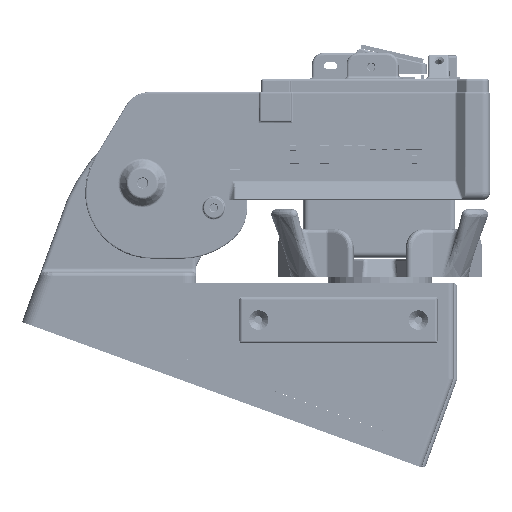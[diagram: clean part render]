
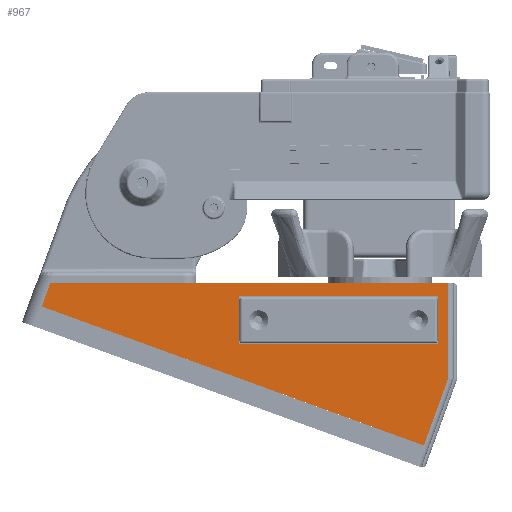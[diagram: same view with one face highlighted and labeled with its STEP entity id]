
A CAD part, left-side view. The second image highlights one B-rep face of the part: STEP entity #967.
In plain terms, the highlighted planar face has unit normal (-1, 0, 0).
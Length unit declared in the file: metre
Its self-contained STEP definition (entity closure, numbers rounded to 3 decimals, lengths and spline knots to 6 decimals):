
#967=ADVANCED_FACE('580:1799',(#8025,#8026),#8027,.F.);
#8025=FACE_OUTER_BOUND('',#36149,.T.);
#8026=FACE_BOUND('',#36150,.T.);
#8027=PLANE('',#36151);
#36149=EDGE_LOOP('',(#163412,#163413,#163414,#163415,#163416));
#36150=EDGE_LOOP('',(#163417,#163418,#163419,#163420));
#36151=AXIS2_PLACEMENT_3D('',#163421,#163422,#163423);
#163412=ORIENTED_EDGE('',*,*,#208791,.F.);
#163413=ORIENTED_EDGE('',*,*,#210375,.T.);
#163414=ORIENTED_EDGE('',*,*,#210376,.F.);
#163415=ORIENTED_EDGE('',*,*,#210318,.T.);
#163416=ORIENTED_EDGE('',*,*,#210321,.F.);
#163417=ORIENTED_EDGE('',*,*,#210118,.T.);
#163418=ORIENTED_EDGE('',*,*,#210116,.T.);
#163419=ORIENTED_EDGE('',*,*,#210114,.T.);
#163420=ORIENTED_EDGE('',*,*,#210111,.T.);
#163421=CARTESIAN_POINT('',(-0.076579,-0.010537,-0.010248));
#163422=DIRECTION('',(1.0,0.,0.));
#163423=DIRECTION('',(0.,0.707,-0.707));
#208791=EDGE_CURVE('649:89',#225316,#225318,#225319,.T.);
#210111=EDGE_CURVE('580:2494',#227543,#227544,#227545,.T.);
#210114=EDGE_CURVE('518:4208',#227548,#227543,#227549,.F.);
#210116=EDGE_CURVE('580:2381',#227551,#227548,#227552,.T.);
#210118=EDGE_CURVE('518:4229',#227544,#227551,#227554,.F.);
#210318=EDGE_CURVE('508:40294',#227806,#227804,#227807,.T.);
#210321=EDGE_CURVE('649:98',#225318,#227804,#227810,.T.);
#210375=EDGE_CURVE('512:3794',#225316,#227880,#227881,.T.);
#210376=EDGE_CURVE('580:2516',#227806,#227880,#227882,.T.);
#225316=VERTEX_POINT('',#252190);
#225318=VERTEX_POINT('',#252192);
#225319=LINE('',#252193,#252194);
#227543=VERTEX_POINT('',#256192);
#227544=VERTEX_POINT('',#256193);
#227545=LINE('',#256194,#256195);
#227548=VERTEX_POINT('',#256200);
#227549=LINE('',#256201,#256202);
#227551=VERTEX_POINT('',#256205);
#227552=LINE('',#256206,#256207);
#227554=LINE('',#256210,#256211);
#227804=VERTEX_POINT('',#256640);
#227806=VERTEX_POINT('',#256642);
#227807=LINE('',#256643,#256644);
#227810=LINE('',#256648,#256649);
#227880=VERTEX_POINT('',#256749);
#227881=LINE('',#256750,#256751);
#227882=LINE('',#256752,#256753);
#252190=CARTESIAN_POINT('',(-0.076579,-0.089939,-0.003));
#252192=CARTESIAN_POINT('',(-0.076579,-0.089939,-0.038869));
#252193=CARTESIAN_POINT('',(-0.076579,-0.089939,-0.021414));
#252194=VECTOR('',#302460,1.0);
#256192=CARTESIAN_POINT('',(-0.076579,-0.011209,-0.026));
#256193=CARTESIAN_POINT('',(-0.076579,-0.011209,-0.008));
#256194=CARTESIAN_POINT('',(-0.076579,-0.011209,-0.0095));
#256195=VECTOR('',#305078,1.0);
#256200=CARTESIAN_POINT('',(-0.076579,-0.086209,-0.026));
#256201=CARTESIAN_POINT('',(-0.076579,-0.023905,-0.026));
#256202=VECTOR('',#305081,1.0);
#256205=CARTESIAN_POINT('',(-0.076579,-0.086209,-0.008));
#256206=CARTESIAN_POINT('',(-0.076579,-0.086209,-0.0095));
#256207=VECTOR('',#305083,1.0);
#256210=CARTESIAN_POINT('',(-0.076579,-0.023905,-0.008));
#256211=VECTOR('',#305085,1.0);
#256640=CARTESIAN_POINT('',(-0.076579,-0.080755,-0.064103));
#256642=CARTESIAN_POINT('',(-0.076579,0.062736,-0.011877));
#256643=CARTESIAN_POINT('',(-0.076579,0.002779,-0.033699));
#256644=VECTOR('',#305556,1.0);
#256648=CARTESIAN_POINT('',(-0.076579,-0.089422,-0.040289));
#256649=VECTOR('',#305561,1.0);
#256749=CARTESIAN_POINT('',(-0.076579,0.059505,-0.003));
#256750=CARTESIAN_POINT('',(-0.076579,-0.012297,-0.003));
#256751=VECTOR('',#305661,1.0);
#256752=CARTESIAN_POINT('',(-0.076579,0.061252,-0.007799));
#256753=VECTOR('',#305662,1.0);
#302460=DIRECTION('',(0.,0.,-1.0));
#305078=DIRECTION('',(0.,0.,1.0));
#305081=DIRECTION('',(0.,-1.0,-0.0));
#305083=DIRECTION('',(-0.0,0.0,-1.0));
#305085=DIRECTION('',(0.,1.0,0.0));
#305556=DIRECTION('',(0.,-0.94,-0.342));
#305561=DIRECTION('',(0.,0.342,-0.94));
#305661=DIRECTION('',(0.,1.0,-0.0));
#305662=DIRECTION('',(0.,-0.342,0.94));
